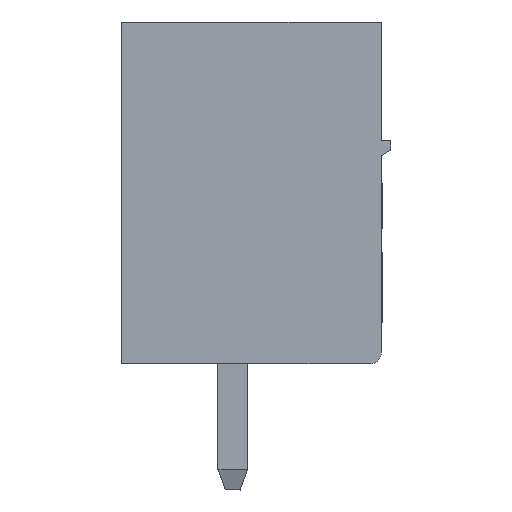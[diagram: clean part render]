
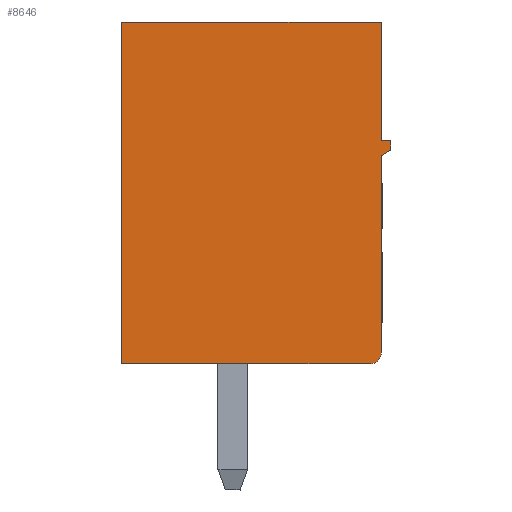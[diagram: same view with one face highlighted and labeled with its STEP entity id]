
A CAD part, left-side view. The second image highlights one B-rep face of the part: STEP entity #8646.
In plain terms, the highlighted planar face has unit normal (-1, 0, 0).
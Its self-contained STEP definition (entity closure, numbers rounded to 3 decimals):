
#336 = CARTESIAN_POINT ( 'NONE',  ( -15.226, 4.938, 7.938 ) ) ;
#837 = EDGE_CURVE ( 'NONE', #13037, #23133, #2054, .T. ) ;
#955 = LINE ( 'NONE', #15283, #20493 ) ;
#1800 = LINE ( 'NONE', #18070, #30062 ) ;
#2054 = LINE ( 'NONE', #2909, #7219 ) ;
#2065 = EDGE_CURVE ( 'NONE', #24693, #28903, #3532, .T. ) ;
#2113 = ORIENTED_EDGE ( 'NONE', *, *, #13824, .T. ) ;
#2769 = LINE ( 'NONE', #21840, #15501 ) ;
#2909 = CARTESIAN_POINT ( 'NONE',  ( -15.226, 5.188, 2.188 ) ) ;
#3327 = AXIS2_PLACEMENT_3D ( 'NONE', #20995, #28545, #7991 ) ;
#3532 = LINE ( 'NONE', #8931, #9513 ) ;
#3646 = PLANE ( 'NONE',  #5697 ) ;
#5079 = LINE ( 'NONE', #5716, #26169 ) ;
#5351 = DIRECTION ( 'NONE',  ( 0., -1., 0. ) ) ;
#5697 = AXIS2_PLACEMENT_3D ( 'NONE', #23675, #31472, #16473 ) ;
#5716 = CARTESIAN_POINT ( 'NONE',  ( -15.226, 5.188, 8.188 ) ) ;
#7219 = VECTOR ( 'NONE', #15370, 1000. ) ;
#7240 = ORIENTED_EDGE ( 'NONE', *, *, #11414, .F. ) ;
#7991 = DIRECTION ( 'NONE',  ( 0., 1., 0. ) ) ;
#8315 = FACE_OUTER_BOUND ( 'NONE', #20813, .T. ) ;
#8499 = DIRECTION ( 'NONE',  ( 0., -1., 0. ) ) ;
#8646 = ADVANCED_FACE ( 'NONE', ( #8315 ), #3646, .T. ) ;
#8931 = CARTESIAN_POINT ( 'NONE',  ( -15.226, 5.688, 2.188 ) ) ;
#9513 = VECTOR ( 'NONE', #31860, 1000. ) ;
#9686 = EDGE_CURVE ( 'NONE', #16082, #12724, #5079, .T. ) ;
#9736 = ORIENTED_EDGE ( 'NONE', *, *, #2065, .T. ) ;
#11054 = CARTESIAN_POINT ( 'NONE',  ( -15.226, 4.938, 7.938 ) ) ;
#11414 = EDGE_CURVE ( 'NONE', #12724, #21114, #2769, .T. ) ;
#11497 = DIRECTION ( 'NONE',  ( 0., 0., -1. ) ) ;
#12724 = VERTEX_POINT ( 'NONE', #32671 ) ;
#13037 = VERTEX_POINT ( 'NONE', #27219 ) ;
#13232 = CARTESIAN_POINT ( 'NONE',  ( -15.226, 5.188, 11.388 ) ) ;
#13824 = EDGE_CURVE ( 'NONE', #16082, #32166, #955, .T. ) ;
#15283 = CARTESIAN_POINT ( 'NONE',  ( -15.226, 5.188, 2.188 ) ) ;
#15370 = DIRECTION ( 'NONE',  ( 0., 0., 1. ) ) ;
#15409 = LINE ( 'NONE', #20598, #30553 ) ;
#15501 = VECTOR ( 'NONE', #11497, 1000. ) ;
#16082 = VERTEX_POINT ( 'NONE', #32585 ) ;
#16473 = DIRECTION ( 'NONE',  ( 0., -1., 0. ) ) ;
#16623 = ORIENTED_EDGE ( 'NONE', *, *, #9686, .F. ) ;
#17048 = ORIENTED_EDGE ( 'NONE', *, *, #837, .T. ) ;
#17297 = EDGE_CURVE ( 'NONE', #27976, #32166, #15409, .T. ) ;
#17883 = ORIENTED_EDGE ( 'NONE', *, *, #30637, .F. ) ;
#18070 = CARTESIAN_POINT ( 'NONE',  ( -15.226, 12.188, 2.188 ) ) ;
#19923 = EDGE_CURVE ( 'NONE', #13037, #28903, #29970, .T. ) ;
#20472 = ORIENTED_EDGE ( 'NONE', *, *, #17297, .F. ) ;
#20493 = VECTOR ( 'NONE', #20619, 1000. ) ;
#20598 = CARTESIAN_POINT ( 'NONE',  ( -15.226, 12.188, 11.388 ) ) ;
#20619 = DIRECTION ( 'NONE',  ( 0., 0., 1. ) ) ;
#20813 = EDGE_LOOP ( 'NONE', ( #9736, #32666, #17048, #31805, #7240, #16623, #2113, #20472, #17883 ) ) ;
#20995 = CARTESIAN_POINT ( 'NONE',  ( -15.226, 5.488, 2.488 ) ) ;
#21114 = VERTEX_POINT ( 'NONE', #336 ) ;
#21245 = EDGE_CURVE ( 'NONE', #21114, #23133, #26682, .T. ) ;
#21840 = CARTESIAN_POINT ( 'NONE',  ( -15.226, 4.938, 8.188 ) ) ;
#23133 = VERTEX_POINT ( 'NONE', #24866 ) ;
#23569 = CARTESIAN_POINT ( 'NONE',  ( -15.226, 12.188, 2.188 ) ) ;
#23675 = CARTESIAN_POINT ( 'NONE',  ( -15.226, 5.688, 2.188 ) ) ;
#24693 = VERTEX_POINT ( 'NONE', #23569 ) ;
#24866 = CARTESIAN_POINT ( 'NONE',  ( -15.226, 5.188, 7.788 ) ) ;
#26169 = VECTOR ( 'NONE', #8499, 1000. ) ;
#26682 = LINE ( 'NONE', #11054, #31056 ) ;
#26737 = CARTESIAN_POINT ( 'NONE',  ( -15.226, 12.188, 11.388 ) ) ;
#27219 = CARTESIAN_POINT ( 'NONE',  ( -15.226, 5.188, 2.488 ) ) ;
#27976 = VERTEX_POINT ( 'NONE', #26737 ) ;
#28442 = CARTESIAN_POINT ( 'NONE',  ( -15.226, 5.488, 2.188 ) ) ;
#28545 = DIRECTION ( 'NONE',  ( 1., 0., 0. ) ) ;
#28903 = VERTEX_POINT ( 'NONE', #28442 ) ;
#29073 = DIRECTION ( 'NONE',  ( 0., 0.857, -0.514 ) ) ;
#29970 = CIRCLE ( 'NONE', #3327, 0.3 ) ;
#30062 = VECTOR ( 'NONE', #30530, 1000. ) ;
#30530 = DIRECTION ( 'NONE',  ( 0., 0., 1. ) ) ;
#30553 = VECTOR ( 'NONE', #5351, 1000. ) ;
#30637 = EDGE_CURVE ( 'NONE', #24693, #27976, #1800, .T. ) ;
#31056 = VECTOR ( 'NONE', #29073, 1000. ) ;
#31472 = DIRECTION ( 'NONE',  ( -1., 0., 0. ) ) ;
#31805 = ORIENTED_EDGE ( 'NONE', *, *, #21245, .F. ) ;
#31860 = DIRECTION ( 'NONE',  ( 0., -1., 0. ) ) ;
#32166 = VERTEX_POINT ( 'NONE', #13232 ) ;
#32585 = CARTESIAN_POINT ( 'NONE',  ( -15.226, 5.188, 8.188 ) ) ;
#32666 = ORIENTED_EDGE ( 'NONE', *, *, #19923, .F. ) ;
#32671 = CARTESIAN_POINT ( 'NONE',  ( -15.226, 4.938, 8.188 ) ) ;
